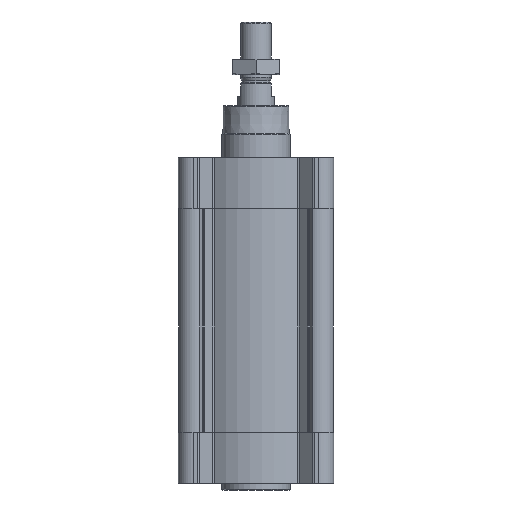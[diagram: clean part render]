
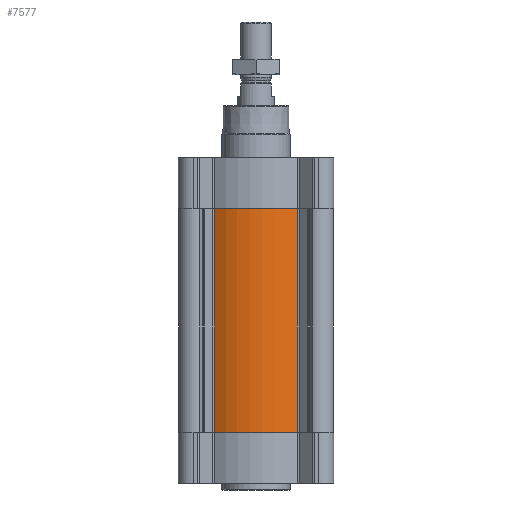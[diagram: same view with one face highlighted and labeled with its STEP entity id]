
A CAD part, front view. The second image highlights one B-rep face of the part: STEP entity #7577.
In plain terms, the highlighted cylindrical face has radius 66 mm (diameter 132 mm), a partial arc.
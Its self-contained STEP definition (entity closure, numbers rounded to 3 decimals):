
#801 = VERTEX_POINT ( 'NONE', #1655 ) ;
#892 = ORIENTED_EDGE ( 'NONE', *, *, #2896, .T. ) ;
#1359 = CARTESIAN_POINT ( 'NONE',  ( -36.184, -55.197, -44.7 ) ) ;
#1486 = DIRECTION ( 'NONE',  ( 1., 0., 0. ) ) ;
#1650 = CIRCLE ( 'NONE', #10556, 66. ) ;
#1655 = CARTESIAN_POINT ( 'NONE',  ( 36.184, -55.197, -44.7 ) ) ;
#2896 = EDGE_CURVE ( 'NONE', #6843, #5767, #18206, .T. ) ;
#3198 = VECTOR ( 'NONE', #6984, 1000. ) ;
#4072 = AXIS2_PLACEMENT_3D ( 'NONE', #8801, #16190, #1486 ) ;
#4642 = ORIENTED_EDGE ( 'NONE', *, *, #14288, .F. ) ;
#4832 = EDGE_LOOP ( 'NONE', ( #18957, #4642, #892, #6021 ) ) ;
#5399 = DIRECTION ( 'NONE',  ( 1., 0., 0. ) ) ;
#5709 = DIRECTION ( 'NONE',  ( 1., 0., 0. ) ) ;
#5767 = VERTEX_POINT ( 'NONE', #12616 ) ;
#6021 = ORIENTED_EDGE ( 'NONE', *, *, #10126, .T. ) ;
#6803 = DIRECTION ( 'NONE',  ( 0., 0., 1. ) ) ;
#6843 = VERTEX_POINT ( 'NONE', #15380 ) ;
#6984 = DIRECTION ( 'NONE',  ( 0., 0., 1. ) ) ;
#7058 = VERTEX_POINT ( 'NONE', #1359 ) ;
#7067 = CARTESIAN_POINT ( 'NONE',  ( 36.184, -55.197, -240.3 ) ) ;
#7577 = ADVANCED_FACE ( 'NONE', ( #19307 ), #17757, .T. ) ;
#8801 = CARTESIAN_POINT ( 'NONE',  ( 0., 0., -240.3 ) ) ;
#9617 = DIRECTION ( 'NONE',  ( 0., 0., 1. ) ) ;
#9852 = DIRECTION ( 'NONE',  ( 0., 0., 1. ) ) ;
#10126 = EDGE_CURVE ( 'NONE', #5767, #801, #17620, .T. ) ;
#10556 = AXIS2_PLACEMENT_3D ( 'NONE', #14571, #9852, #5399 ) ;
#11185 = EDGE_CURVE ( 'NONE', #7058, #801, #1650, .T. ) ;
#11400 = LINE ( 'NONE', #15617, #13517 ) ;
#12616 = CARTESIAN_POINT ( 'NONE',  ( 36.184, -55.197, -240.3 ) ) ;
#13477 = AXIS2_PLACEMENT_3D ( 'NONE', #19197, #6803, #5709 ) ;
#13517 = VECTOR ( 'NONE', #9617, 1000. ) ;
#14288 = EDGE_CURVE ( 'NONE', #6843, #7058, #11400, .T. ) ;
#14571 = CARTESIAN_POINT ( 'NONE',  ( 0., 0., -44.7 ) ) ;
#15380 = CARTESIAN_POINT ( 'NONE',  ( -36.184, -55.197, -240.3 ) ) ;
#15617 = CARTESIAN_POINT ( 'NONE',  ( -36.184, -55.197, -240.3 ) ) ;
#16190 = DIRECTION ( 'NONE',  ( 0., 0., 1. ) ) ;
#17620 = LINE ( 'NONE', #7067, #3198 ) ;
#17757 = CYLINDRICAL_SURFACE ( 'NONE', #4072, 66. ) ;
#18206 = CIRCLE ( 'NONE', #13477, 66. ) ;
#18957 = ORIENTED_EDGE ( 'NONE', *, *, #11185, .F. ) ;
#19197 = CARTESIAN_POINT ( 'NONE',  ( 0., 0., -240.3 ) ) ;
#19307 = FACE_OUTER_BOUND ( 'NONE', #4832, .T. ) ;
